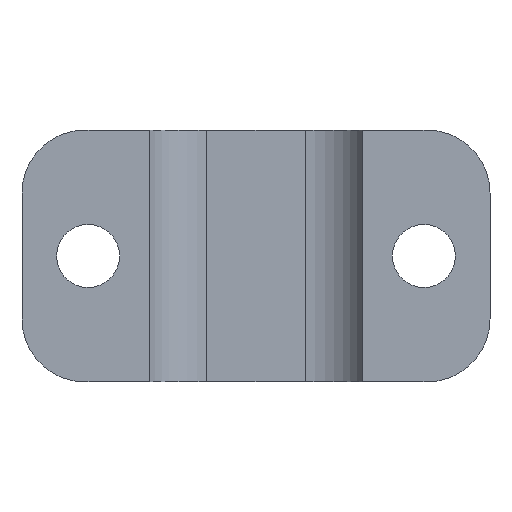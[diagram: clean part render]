
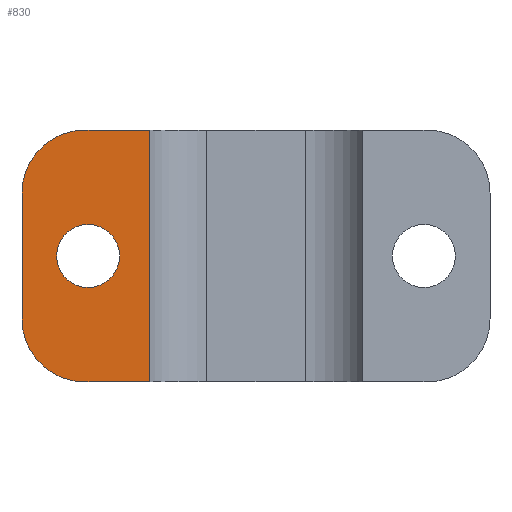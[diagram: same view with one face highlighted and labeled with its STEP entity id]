
A CAD part, front view. The second image highlights one B-rep face of the part: STEP entity #830.
In plain terms, the highlighted planar face has unit normal (0, -1, 0).
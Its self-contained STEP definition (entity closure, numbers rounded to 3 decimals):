
#10 = VERTEX_POINT ( 'NONE', #468 ) ;
#17 = CIRCLE ( 'NONE', #62, 1.5 ) ;
#18 = LINE ( 'NONE', #150, #475 ) ;
#33 = CIRCLE ( 'NONE', #279, 3. ) ;
#50 = EDGE_CURVE ( 'NONE', #748, #647, #18, .T. ) ;
#56 = EDGE_CURVE ( 'NONE', #817, #607, #797, .T. ) ;
#62 = AXIS2_PLACEMENT_3D ( 'NONE', #536, #796, #471 ) ;
#64 = FACE_OUTER_BOUND ( 'NONE', #508, .T. ) ;
#68 = EDGE_CURVE ( 'NONE', #152, #579, #575, .T. ) ;
#72 = ORIENTED_EDGE ( 'NONE', *, *, #689, .F. ) ;
#73 = EDGE_LOOP ( 'NONE', ( #300, #639 ) ) ;
#94 = DIRECTION ( 'NONE',  ( 0., -1., 0. ) ) ;
#119 = EDGE_CURVE ( 'NONE', #607, #391, #33, .T. ) ;
#150 = CARTESIAN_POINT ( 'NONE',  ( -2.713, 1.5, 12. ) ) ;
#152 = VERTEX_POINT ( 'NONE', #615 ) ;
#156 = CARTESIAN_POINT ( 'NONE',  ( -5.8, 1.5, 3. ) ) ;
#176 = EDGE_CURVE ( 'NONE', #10, #817, #255, .T. ) ;
#187 = AXIS2_PLACEMENT_3D ( 'NONE', #320, #761, #318 ) ;
#198 = ORIENTED_EDGE ( 'NONE', *, *, #56, .T. ) ;
#204 = ORIENTED_EDGE ( 'NONE', *, *, #261, .T. ) ;
#224 = AXIS2_PLACEMENT_3D ( 'NONE', #298, #228, #532 ) ;
#228 = DIRECTION ( 'NONE',  ( 0., 1., 0. ) ) ;
#229 = CARTESIAN_POINT ( 'NONE',  ( -5.8, 1.5, 0. ) ) ;
#254 = VECTOR ( 'NONE', #282, 1000. ) ;
#255 = CIRCLE ( 'NONE', #512, 3. ) ;
#261 = EDGE_CURVE ( 'NONE', #391, #647, #547, .T. ) ;
#270 = DIRECTION ( 'NONE',  ( 1., 0., 0. ) ) ;
#271 = ORIENTED_EDGE ( 'NONE', *, *, #119, .T. ) ;
#279 = AXIS2_PLACEMENT_3D ( 'NONE', #156, #94, #355 ) ;
#282 = DIRECTION ( 'NONE',  ( 0., 0., -1. ) ) ;
#298 = CARTESIAN_POINT ( 'NONE',  ( -5.65, 1.5, 6. ) ) ;
#300 = ORIENTED_EDGE ( 'NONE', *, *, #68, .T. ) ;
#318 = DIRECTION ( 'NONE',  ( 0., 0., 1. ) ) ;
#320 = CARTESIAN_POINT ( 'NONE',  ( 0., 1.5, 12. ) ) ;
#354 = LINE ( 'NONE', #589, #787 ) ;
#355 = DIRECTION ( 'NONE',  ( 0., 0., 1. ) ) ;
#372 = DIRECTION ( 'NONE',  ( 0., -1., 0. ) ) ;
#389 = PLANE ( 'NONE',  #187 ) ;
#391 = VERTEX_POINT ( 'NONE', #229 ) ;
#402 = ORIENTED_EDGE ( 'NONE', *, *, #176, .T. ) ;
#425 = DIRECTION ( 'NONE',  ( 1., 0., 0. ) ) ;
#437 = CARTESIAN_POINT ( 'NONE',  ( -5.8, 1.5, 9. ) ) ;
#448 = VECTOR ( 'NONE', #425, 1000. ) ;
#468 = CARTESIAN_POINT ( 'NONE',  ( -5.8, 1.5, 12. ) ) ;
#471 = DIRECTION ( 'NONE',  ( 0., 0., 1. ) ) ;
#475 = VECTOR ( 'NONE', #660, 1000. ) ;
#508 = EDGE_LOOP ( 'NONE', ( #198, #271, #204, #722, #72, #402 ) ) ;
#512 = AXIS2_PLACEMENT_3D ( 'NONE', #437, #372, #693 ) ;
#532 = DIRECTION ( 'NONE',  ( 0., 0., 1. ) ) ;
#536 = CARTESIAN_POINT ( 'NONE',  ( -5.65, 1.5, 6. ) ) ;
#541 = CARTESIAN_POINT ( 'NONE',  ( -8.8, 1.5, 12. ) ) ;
#547 = LINE ( 'NONE', #808, #448 ) ;
#575 = CIRCLE ( 'NONE', #224, 1.5 ) ;
#579 = VERTEX_POINT ( 'NONE', #698 ) ;
#589 = CARTESIAN_POINT ( 'NONE',  ( 0., 1.5, 12. ) ) ;
#595 = CARTESIAN_POINT ( 'NONE',  ( -2.713, 1.5, 12. ) ) ;
#607 = VERTEX_POINT ( 'NONE', #632 ) ;
#609 = CARTESIAN_POINT ( 'NONE',  ( -8.8, 1.5, 9. ) ) ;
#615 = CARTESIAN_POINT ( 'NONE',  ( -5.65, 1.5, 7.5 ) ) ;
#632 = CARTESIAN_POINT ( 'NONE',  ( -8.8, 1.5, 3. ) ) ;
#639 = ORIENTED_EDGE ( 'NONE', *, *, #753, .T. ) ;
#647 = VERTEX_POINT ( 'NONE', #800 ) ;
#660 = DIRECTION ( 'NONE',  ( 0., 0., -1. ) ) ;
#689 = EDGE_CURVE ( 'NONE', #10, #748, #354, .T. ) ;
#693 = DIRECTION ( 'NONE',  ( 0., 0., 1. ) ) ;
#698 = CARTESIAN_POINT ( 'NONE',  ( -5.65, 1.5, 4.5 ) ) ;
#722 = ORIENTED_EDGE ( 'NONE', *, *, #50, .F. ) ;
#748 = VERTEX_POINT ( 'NONE', #595 ) ;
#753 = EDGE_CURVE ( 'NONE', #579, #152, #17, .T. ) ;
#761 = DIRECTION ( 'NONE',  ( 0., 1., 0. ) ) ;
#787 = VECTOR ( 'NONE', #270, 1000. ) ;
#796 = DIRECTION ( 'NONE',  ( 0., 1., 0. ) ) ;
#797 = LINE ( 'NONE', #541, #254 ) ;
#800 = CARTESIAN_POINT ( 'NONE',  ( -2.713, 1.5, 0. ) ) ;
#808 = CARTESIAN_POINT ( 'NONE',  ( 0., 1.5, 0. ) ) ;
#817 = VERTEX_POINT ( 'NONE', #609 ) ;
#822 = FACE_BOUND ( 'NONE', #73, .T. ) ;
#830 = ADVANCED_FACE ( 'NONE', ( #822, #64 ), #389, .F. ) ;
